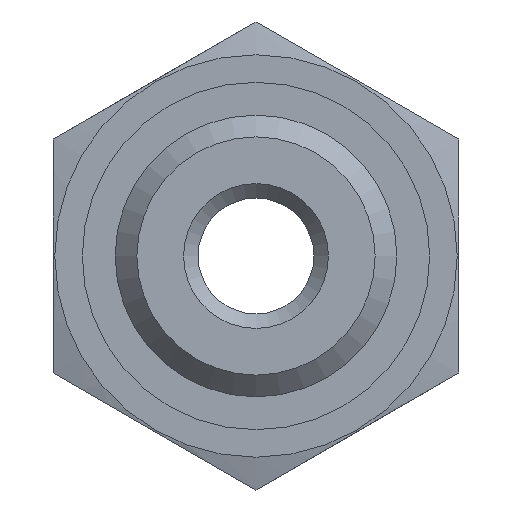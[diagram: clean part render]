
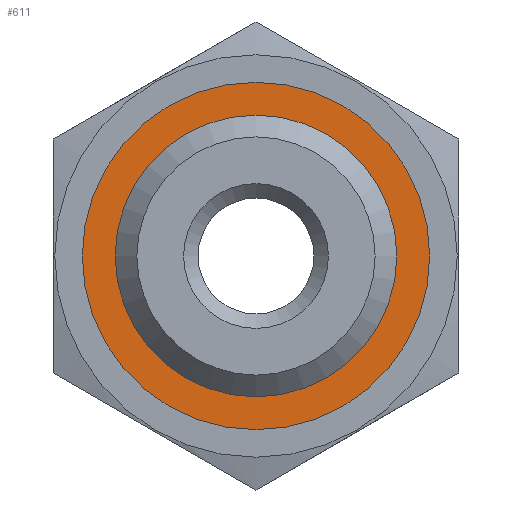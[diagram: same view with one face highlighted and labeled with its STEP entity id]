
A CAD part, left-side view. The second image highlights one B-rep face of the part: STEP entity #611.
In plain terms, the highlighted planar face has unit normal (-1, 0, 0).
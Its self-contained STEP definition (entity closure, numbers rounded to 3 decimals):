
#27=CIRCLE('',#651,6.);
#28=CIRCLE('',#653,4.35);
#106=ORIENTED_EDGE('',*,*,#177,.F.);
#107=ORIENTED_EDGE('',*,*,#176,.T.);
#176=EDGE_CURVE('',#213,#213,#27,.T.);
#177=EDGE_CURVE('',#214,#214,#28,.T.);
#213=VERTEX_POINT('',#913);
#214=VERTEX_POINT('',#916);
#261=EDGE_LOOP('',(#106));
#262=EDGE_LOOP('',(#107));
#319=FACE_BOUND('',#261,.T.);
#320=FACE_BOUND('',#262,.T.);
#370=PLANE('',#652);
#611=ADVANCED_FACE('',(#319,#320),#370,.F.);
#651=AXIS2_PLACEMENT_3D('',#912,#729,#730);
#652=AXIS2_PLACEMENT_3D('',#914,#731,#732);
#653=AXIS2_PLACEMENT_3D('',#915,#733,#734);
#729=DIRECTION('',(-1.,0.,0.));
#730=DIRECTION('',(0.,0.,1.));
#731=DIRECTION('',(1.,0.,0.));
#732=DIRECTION('',(0.,0.,-1.));
#733=DIRECTION('',(-1.,0.,0.));
#734=DIRECTION('',(0.,0.,1.));
#912=CARTESIAN_POINT('',(-15.8,0.,0.));
#913=CARTESIAN_POINT('',(-15.8,0.,6.));
#914=CARTESIAN_POINT('',(-15.8,0.,6.));
#915=CARTESIAN_POINT('',(-15.8,0.,0.));
#916=CARTESIAN_POINT('',(-15.8,0.,4.35));
